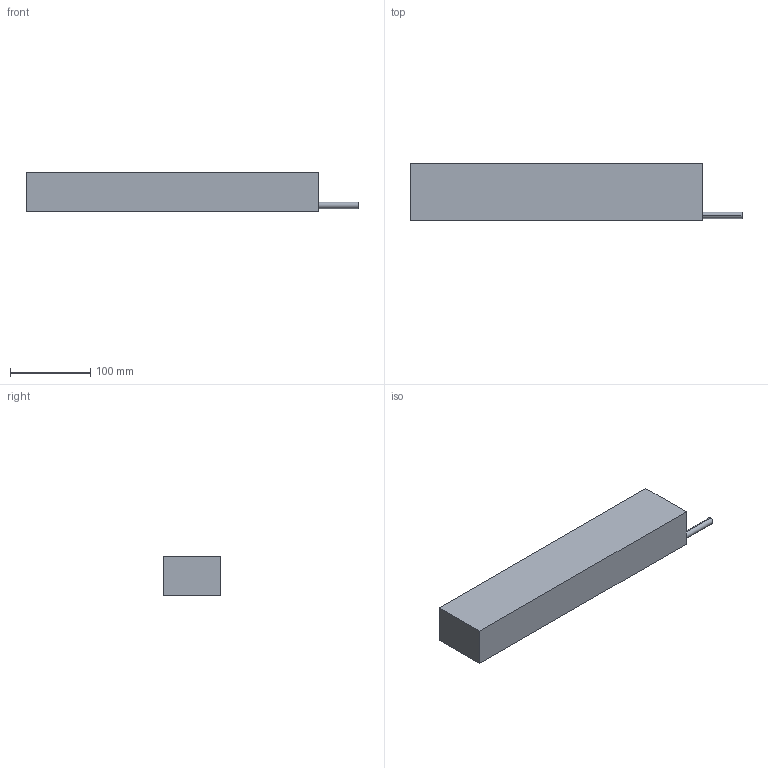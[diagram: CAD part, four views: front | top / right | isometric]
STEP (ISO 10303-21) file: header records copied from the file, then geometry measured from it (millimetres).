
FILE_DESCRIPTION (( 'STEP AP214' ), '1' );
FILE_NAME ('FLM-71-364.STEP', '2022-05-12T08:03:08', ( 'Microsoft' ), ( 'Microsoft' ), 'SwSTEP 2.0', 'SolidWorks 2016', '' );
FILE_SCHEMA (( 'AUTOMOTIVE_DESIGN' ));
Length unit declared in the file: millimetre
Products named in the file (1): FLM-71-364
Bounding box: 413.3 x 71 x 49.3 mm (x, y, z)
Volume: 1274588.1 mm3; surface area: 97542 mm2
Topology: 1 solids, 1 shells, 153 faces, 354 edges, 180 vertices
Faces by surface type: cone 96, cylinder 50, plane 7
Entity records: 4494 total; most frequent: DIRECTION 762, CARTESIAN_POINT 640, ORIENTED_EDGE 612, EDGE_CURVE 306, AXIS2_PLACEMENT_3D 302, VERTEX_POINT 180, EDGE_LOOP 178, VECTOR 158
